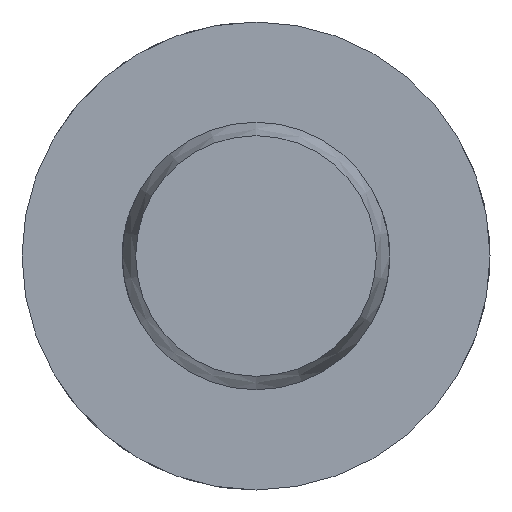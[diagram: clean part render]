
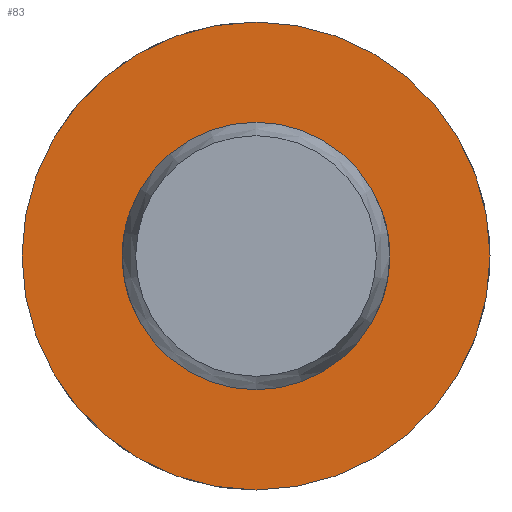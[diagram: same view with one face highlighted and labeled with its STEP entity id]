
A CAD part, left-side view. The second image highlights one B-rep face of the part: STEP entity #83.
In plain terms, the highlighted planar face has unit normal (-1, 0, 0).
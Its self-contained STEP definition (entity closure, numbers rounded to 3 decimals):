
#83 = ADVANCED_FACE( '', ( #128, #129 ), #130, .F. );
#128 = FACE_OUTER_BOUND( '', #204, .T. );
#129 = FACE_BOUND( '', #205, .T. );
#130 = PLANE( '', #206 );
#204 = EDGE_LOOP( '', ( #318 ) );
#205 = EDGE_LOOP( '', ( #319 ) );
#206 = AXIS2_PLACEMENT_3D( '', #320, #321, #322 );
#318 = ORIENTED_EDGE( '', *, *, #481, .F. );
#319 = ORIENTED_EDGE( '', *, *, #471, .T. );
#320 = CARTESIAN_POINT( '', ( 98.2, 4., 0. ) );
#321 = DIRECTION( '', ( 1., 0., 0. ) );
#322 = DIRECTION( '', ( 0., 0., -1. ) );
#471 = EDGE_CURVE( '', #541, #541, #542, .T. );
#481 = EDGE_CURVE( '', #559, #559, #560, .T. );
#541 = VERTEX_POINT( '', #726 );
#542 = CIRCLE( '', #727, 4. );
#559 = VERTEX_POINT( '', #861 );
#560 = CIRCLE( '', #862, 7. );
#726 = CARTESIAN_POINT( '', ( 98.2, 0., -4. ) );
#727 = AXIS2_PLACEMENT_3D( '', #923, #924, #925 );
#861 = CARTESIAN_POINT( '', ( 98.2, 0., -7. ) );
#862 = AXIS2_PLACEMENT_3D( '', #944, #945, #946 );
#923 = CARTESIAN_POINT( '', ( 98.2, 0., 0. ) );
#924 = DIRECTION( '', ( 1., 0., 0. ) );
#925 = DIRECTION( '', ( 0., 0., -1. ) );
#944 = CARTESIAN_POINT( '', ( 98.2, 0., 0. ) );
#945 = DIRECTION( '', ( 1., 0., 0. ) );
#946 = DIRECTION( '', ( 0., 0., -1. ) );
